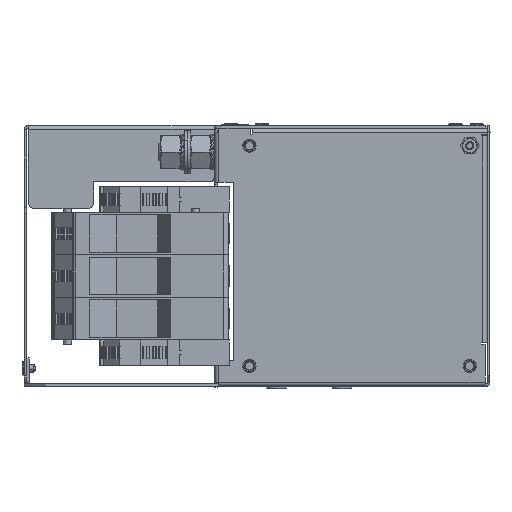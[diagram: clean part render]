
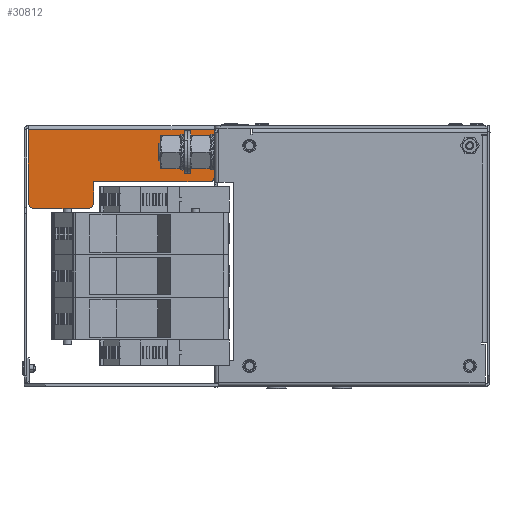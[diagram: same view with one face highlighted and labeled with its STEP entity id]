
A CAD part, left-side view. The second image highlights one B-rep face of the part: STEP entity #30812.
In plain terms, the highlighted planar face has unit normal (-1, 0, 0).
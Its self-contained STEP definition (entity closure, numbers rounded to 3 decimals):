
#292 = ORIENTED_EDGE ( 'NONE', *, *, #31631, .T. ) ;
#963 = DIRECTION ( 'NONE',  ( -1., 0., 0. ) ) ;
#1546 = CIRCLE ( 'NONE', #12151, 3. ) ;
#1950 = LINE ( 'NONE', #11748, #51383 ) ;
#2776 = EDGE_CURVE ( 'NONE', #16279, #14320, #6644, .T. ) ;
#2804 = DIRECTION ( 'NONE',  ( 0., 1., 0. ) ) ;
#4251 = EDGE_CURVE ( 'NONE', #36057, #14320, #8535, .T. ) ;
#4351 = ORIENTED_EDGE ( 'NONE', *, *, #51944, .F. ) ;
#4492 = DIRECTION ( 'NONE',  ( 0., 0., 1. ) ) ;
#5053 = CARTESIAN_POINT ( 'NONE',  ( -12.619, 222.1, -72.7 ) ) ;
#5382 = AXIS2_PLACEMENT_3D ( 'NONE', #8865, #40497, #13367 ) ;
#6644 = LINE ( 'NONE', #5053, #29197 ) ;
#8363 = DIRECTION ( 'NONE',  ( -1., 0., 0. ) ) ;
#8535 = LINE ( 'NONE', #50245, #21926 ) ;
#8865 = CARTESIAN_POINT ( 'NONE',  ( -12.619, 134.6, -96.5 ) ) ;
#9394 = ORIENTED_EDGE ( 'NONE', *, *, #2776, .F. ) ;
#9893 = VERTEX_POINT ( 'NONE', #17892 ) ;
#11748 = CARTESIAN_POINT ( 'NONE',  ( -12.619, 132.6, -98.5 ) ) ;
#11821 = CARTESIAN_POINT ( 'NONE',  ( -12.619, 219.1, -111.5 ) ) ;
#12151 = AXIS2_PLACEMENT_3D ( 'NONE', #27844, #963, #32407 ) ;
#13367 = DIRECTION ( 'NONE',  ( 0., 0., 1. ) ) ;
#13554 = CARTESIAN_POINT ( 'NONE',  ( -12.619, 190.6, -98.5 ) ) ;
#14008 = DIRECTION ( 'NONE',  ( 0., 1., 0. ) ) ;
#14242 = CIRCLE ( 'NONE', #29163, 3. ) ;
#14320 = VERTEX_POINT ( 'NONE', #36923 ) ;
#14780 = LINE ( 'NONE', #25169, #28182 ) ;
#15315 = EDGE_CURVE ( 'NONE', #54307, #9893, #14242, .T. ) ;
#15922 = ORIENTED_EDGE ( 'NONE', *, *, #49771, .F. ) ;
#16279 = VERTEX_POINT ( 'NONE', #49167 ) ;
#16738 = ORIENTED_EDGE ( 'NONE', *, *, #26873, .F. ) ;
#17835 = ORIENTED_EDGE ( 'NONE', *, *, #49389, .T. ) ;
#17892 = CARTESIAN_POINT ( 'NONE',  ( -12.619, 190.6, -108.5 ) ) ;
#18832 = EDGE_CURVE ( 'NONE', #34832, #9893, #42222, .T. ) ;
#21070 = VECTOR ( 'NONE', #34996, 1000. ) ;
#21926 = VECTOR ( 'NONE', #14008, 1000. ) ;
#24294 = ORIENTED_EDGE ( 'NONE', *, *, #15315, .T. ) ;
#24966 = ORIENTED_EDGE ( 'NONE', *, *, #4251, .T. ) ;
#25163 = CARTESIAN_POINT ( 'NONE',  ( -12.619, 132.6, -73.5 ) ) ;
#25169 = CARTESIAN_POINT ( 'NONE',  ( -12.619, 132.6, -98.5 ) ) ;
#26873 = EDGE_CURVE ( 'NONE', #54307, #39558, #46642, .T. ) ;
#27844 = CARTESIAN_POINT ( 'NONE',  ( -12.619, 219.1, -108.5 ) ) ;
#28182 = VECTOR ( 'NONE', #52360, 1000. ) ;
#29163 = AXIS2_PLACEMENT_3D ( 'NONE', #35390, #8363, #39983 ) ;
#29197 = VECTOR ( 'NONE', #4492, 1000. ) ;
#29524 = DIRECTION ( 'NONE',  ( 0., 0., 1. ) ) ;
#30812 = ADVANCED_FACE ( 'NONE', ( #36770 ), #47423, .T. ) ;
#31631 = EDGE_CURVE ( 'NONE', #16279, #39558, #1546, .T. ) ;
#32407 = DIRECTION ( 'NONE',  ( 0., 0., 1. ) ) ;
#32600 = DIRECTION ( 'NONE',  ( 0., 0., -1. ) ) ;
#32886 = CARTESIAN_POINT ( 'NONE',  ( -12.619, 134.6, -98.5 ) ) ;
#34832 = VERTEX_POINT ( 'NONE', #13554 ) ;
#34996 = DIRECTION ( 'NONE',  ( 0., 1., 0. ) ) ;
#35390 = CARTESIAN_POINT ( 'NONE',  ( -12.619, 193.6, -108.5 ) ) ;
#36057 = VERTEX_POINT ( 'NONE', #25163 ) ;
#36770 = FACE_OUTER_BOUND ( 'NONE', #53297, .T. ) ;
#36923 = CARTESIAN_POINT ( 'NONE',  ( -12.619, 222.1, -73.5 ) ) ;
#37894 = AXIS2_PLACEMENT_3D ( 'NONE', #52165, #56735, #29524 ) ;
#39558 = VERTEX_POINT ( 'NONE', #11821 ) ;
#39573 = CARTESIAN_POINT ( 'NONE',  ( -12.619, 190.6, -111.5 ) ) ;
#39983 = DIRECTION ( 'NONE',  ( 0., 0., 1. ) ) ;
#40429 = VERTEX_POINT ( 'NONE', #50119 ) ;
#40497 = DIRECTION ( 'NONE',  ( -1., 0., 0. ) ) ;
#40787 = VECTOR ( 'NONE', #32600, 1000. ) ;
#42222 = LINE ( 'NONE', #50673, #40787 ) ;
#46642 = LINE ( 'NONE', #39573, #21070 ) ;
#47423 = PLANE ( 'NONE',  #37894 ) ;
#49160 = ORIENTED_EDGE ( 'NONE', *, *, #18832, .F. ) ;
#49167 = CARTESIAN_POINT ( 'NONE',  ( -12.619, 222.1, -108.5 ) ) ;
#49389 = EDGE_CURVE ( 'NONE', #53533, #40429, #56832, .T. ) ;
#49771 = EDGE_CURVE ( 'NONE', #36057, #40429, #14780, .T. ) ;
#50119 = CARTESIAN_POINT ( 'NONE',  ( -12.619, 132.6, -96.5 ) ) ;
#50245 = CARTESIAN_POINT ( 'NONE',  ( -12.619, 190.6, -73.5 ) ) ;
#50673 = CARTESIAN_POINT ( 'NONE',  ( -12.619, 190.6, -98.5 ) ) ;
#51383 = VECTOR ( 'NONE', #2804, 1000. ) ;
#51944 = EDGE_CURVE ( 'NONE', #53533, #34832, #1950, .T. ) ;
#52165 = CARTESIAN_POINT ( 'NONE',  ( -12.619, 190.6, -72.7 ) ) ;
#52360 = DIRECTION ( 'NONE',  ( 0., 0., -1. ) ) ;
#52650 = CARTESIAN_POINT ( 'NONE',  ( -12.619, 193.6, -111.5 ) ) ;
#53297 = EDGE_LOOP ( 'NONE', ( #4351, #17835, #15922, #24966, #9394, #292, #16738, #24294, #49160 ) ) ;
#53533 = VERTEX_POINT ( 'NONE', #32886 ) ;
#54307 = VERTEX_POINT ( 'NONE', #52650 ) ;
#56735 = DIRECTION ( 'NONE',  ( -1., 0., 0. ) ) ;
#56832 = CIRCLE ( 'NONE', #5382, 2. ) ;
